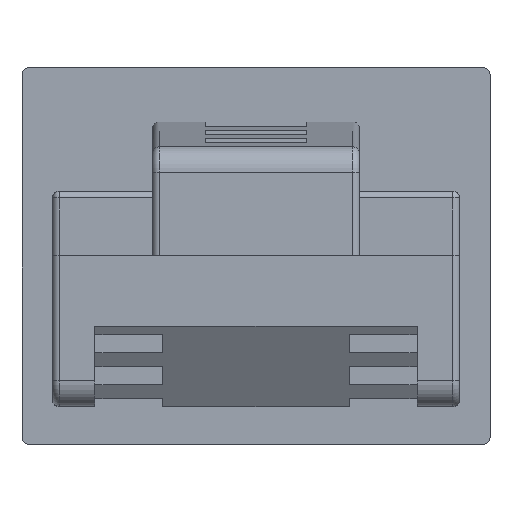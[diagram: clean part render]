
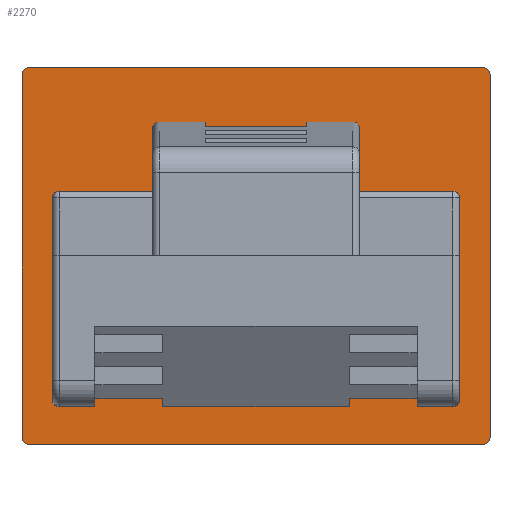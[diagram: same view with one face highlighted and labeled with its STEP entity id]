
A CAD part, top view. The second image highlights one B-rep face of the part: STEP entity #2270.
In plain terms, the highlighted planar face has unit normal (0, 0, 1).
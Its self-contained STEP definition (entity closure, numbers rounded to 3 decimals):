
#36=CARTESIAN_POINT('',(-6.7,5.35,0.3));
#37=DIRECTION('',(0.,0.,1.));
#38=DIRECTION('',(0.,1.,0.));
#39=AXIS2_PLACEMENT_3D('',#36,#37,#38);
#41=DIRECTION('',(1.,0.,0.));
#42=VECTOR('',#41,13.4);
#43=CARTESIAN_POINT('',(-6.7,5.55,0.3));
#44=LINE('',#43,#42);
#45=CARTESIAN_POINT('',(6.7,5.35,0.3));
#46=DIRECTION('',(0.,0.,1.));
#47=DIRECTION('',(1.,0.,0.));
#48=AXIS2_PLACEMENT_3D('',#45,#46,#47);
#50=CARTESIAN_POINT('',(6.7,-5.35,0.3));
#51=DIRECTION('',(0.,0.,1.));
#52=DIRECTION('',(0.,-1.,0.));
#53=AXIS2_PLACEMENT_3D('',#50,#51,#52);
#55=DIRECTION('',(-1.,0.,0.));
#56=VECTOR('',#55,13.4);
#57=CARTESIAN_POINT('',(6.7,-5.55,0.3));
#58=LINE('',#57,#56);
#59=CARTESIAN_POINT('',(-6.7,-5.35,0.3));
#60=DIRECTION('',(0.,0.,1.));
#61=DIRECTION('',(-1.,0.,0.));
#62=AXIS2_PLACEMENT_3D('',#59,#60,#61);
#64=DIRECTION('',(0.,1.,0.));
#65=VECTOR('',#64,10.7);
#66=CARTESIAN_POINT('',(-6.9,-5.35,0.3));
#67=LINE('',#66,#65);
#68=DIRECTION('',(0.,1.,0.));
#69=VECTOR('',#68,5.);
#70=CARTESIAN_POINT('',(-4.75,-4.45,0.3));
#71=LINE('',#70,#69);
#72=DIRECTION('',(0.,1.,0.));
#73=VECTOR('',#72,5.);
#74=CARTESIAN_POINT('',(2.75,-4.45,0.3));
#75=LINE('',#74,#73);
#76=DIRECTION('',(0.,1.,0.));
#77=VECTOR('',#76,5.95);
#78=CARTESIAN_POINT('',(6.,-4.25,0.3));
#79=LINE('',#78,#77);
#80=DIRECTION('',(-1.,0.,0.));
#81=VECTOR('',#80,2.75);
#82=CARTESIAN_POINT('',(5.8,1.9,0.3));
#83=LINE('',#82,#81);
#84=DIRECTION('',(-1.,0.,0.));
#85=VECTOR('',#84,1.35);
#86=CARTESIAN_POINT('',(2.85,3.95,0.3));
#87=LINE('',#86,#85);
#88=DIRECTION('',(1.,0.,0.));
#89=VECTOR('',#88,3.);
#90=CARTESIAN_POINT('',(-1.5,-3.192,0.3));
#91=LINE('',#90,#89);
#92=DIRECTION('',(-1.,0.,0.));
#93=VECTOR('',#92,1.35);
#94=CARTESIAN_POINT('',(-1.5,3.95,0.3));
#95=LINE('',#94,#93);
#96=DIRECTION('',(1.,0.,0.));
#97=VECTOR('',#96,2.75);
#98=CARTESIAN_POINT('',(-5.8,1.9,0.3));
#99=LINE('',#98,#97);
#750=DIRECTION('',(0.,1.,0.));
#751=VECTOR('',#750,10.7);
#752=CARTESIAN_POINT('',(6.9,-5.35,0.3));
#753=LINE('',#752,#751);
#842=DIRECTION('',(-1.,0.,0.));
#843=VECTOR('',#842,1.05);
#844=CARTESIAN_POINT('',(5.8,-4.45,0.3));
#845=LINE('',#844,#843);
#850=DIRECTION('',(-1.,0.,0.));
#851=VECTOR('',#850,5.5);
#852=CARTESIAN_POINT('',(2.75,-4.45,0.3));
#853=LINE('',#852,#851);
#862=DIRECTION('',(-1.,0.,0.));
#863=VECTOR('',#862,1.05);
#864=CARTESIAN_POINT('',(-4.75,-4.45,0.3));
#865=LINE('',#864,#863);
#899=DIRECTION('',(0.,1.,0.));
#900=VECTOR('',#899,5.);
#901=CARTESIAN_POINT('',(4.75,-4.45,0.3));
#902=LINE('',#901,#900);
#1088=DIRECTION('',(1.,0.,0.));
#1089=VECTOR('',#1088,2.);
#1090=CARTESIAN_POINT('',(2.75,0.55,0.3));
#1091=LINE('',#1090,#1089);
#1100=DIRECTION('',(1.,0.,0.));
#1101=VECTOR('',#1100,2.);
#1102=CARTESIAN_POINT('',(-4.75,0.55,0.3));
#1103=LINE('',#1102,#1101);
#1160=DIRECTION('',(0.,1.,0.));
#1161=VECTOR('',#1160,5.);
#1162=CARTESIAN_POINT('',(-2.75,-4.45,0.3));
#1163=LINE('',#1162,#1161);
#1230=DIRECTION('',(0.,1.,0.));
#1231=VECTOR('',#1230,5.95);
#1232=CARTESIAN_POINT('',(-6.,-4.25,0.3));
#1233=LINE('',#1232,#1231);
#1234=CARTESIAN_POINT('',(-5.8,1.7,0.3));
#1235=DIRECTION('',(0.,0.,-1.));
#1236=DIRECTION('',(-1.,0.,0.));
#1237=AXIS2_PLACEMENT_3D('',#1234,#1235,#1236);
#1255=DIRECTION('',(0.,1.,0.));
#1256=VECTOR('',#1255,1.85);
#1257=CARTESIAN_POINT('',(-3.05,1.9,0.3));
#1258=LINE('',#1257,#1256);
#1313=CARTESIAN_POINT('',(-3.05,3.75,0.3));
#1314=CARTESIAN_POINT('',(-3.05,3.816,0.3));
#1315=CARTESIAN_POINT('',(-3.,3.899,0.3));
#1316=CARTESIAN_POINT('',(-2.917,3.95,0.3));
#1317=CARTESIAN_POINT('',(-2.85,3.95,0.3));
#1375=DIRECTION('',(0.,1.,0.));
#1376=VECTOR('',#1375,7.142);
#1377=CARTESIAN_POINT('',(-1.5,-3.192,0.3));
#1378=LINE('',#1377,#1376);
#1423=DIRECTION('',(0.,1.,0.));
#1424=VECTOR('',#1423,7.142);
#1425=CARTESIAN_POINT('',(1.5,-3.192,0.3));
#1426=LINE('',#1425,#1424);
#1472=CARTESIAN_POINT('',(2.85,3.95,0.3));
#1473=CARTESIAN_POINT('',(2.917,3.95,0.3));
#1474=CARTESIAN_POINT('',(3.,3.899,0.3));
#1475=CARTESIAN_POINT('',(3.05,3.816,0.3));
#1476=CARTESIAN_POINT('',(3.05,3.75,0.3));
#1503=DIRECTION('',(0.,1.,0.));
#1504=VECTOR('',#1503,1.85);
#1505=CARTESIAN_POINT('',(3.05,1.9,0.3));
#1506=LINE('',#1505,#1504);
#1582=CARTESIAN_POINT('',(5.8,1.7,0.3));
#1583=DIRECTION('',(0.,0.,-1.));
#1584=DIRECTION('',(0.,1.,0.));
#1585=AXIS2_PLACEMENT_3D('',#1582,#1583,#1584);
#1587=CARTESIAN_POINT('',(5.8,-4.25,0.3));
#1588=DIRECTION('',(0.,0.,-1.));
#1589=DIRECTION('',(1.,0.,0.));
#1590=AXIS2_PLACEMENT_3D('',#1587,#1588,#1589);
#1685=CARTESIAN_POINT('',(-5.8,-4.25,0.3));
#1686=DIRECTION('',(0.,0.,-1.));
#1687=DIRECTION('',(0.,-1.,0.));
#1688=AXIS2_PLACEMENT_3D('',#1685,#1686,#1687);
#1718=CARTESIAN_POINT('',(-6.7,5.55,0.3));
#1719=CARTESIAN_POINT('',(-6.9,5.35,0.3));
#1720=VERTEX_POINT('',#1718);
#1721=VERTEX_POINT('',#1719);
#1726=CARTESIAN_POINT('',(-6.9,-5.35,0.3));
#1728=VERTEX_POINT('',#1726);
#1730=CARTESIAN_POINT('',(-6.7,-5.55,0.3));
#1731=VERTEX_POINT('',#1730);
#1734=CARTESIAN_POINT('',(6.9,5.35,0.3));
#1736=VERTEX_POINT('',#1734);
#1738=CARTESIAN_POINT('',(6.7,5.55,0.3));
#1739=VERTEX_POINT('',#1738);
#1742=CARTESIAN_POINT('',(6.7,-5.55,0.3));
#1743=CARTESIAN_POINT('',(6.9,-5.35,0.3));
#1744=VERTEX_POINT('',#1742);
#1745=VERTEX_POINT('',#1743);
#1786=CARTESIAN_POINT('',(-2.85,3.95,0.3));
#1787=VERTEX_POINT('',#1786);
#1788=CARTESIAN_POINT('',(-3.05,3.75,0.3));
#1789=VERTEX_POINT('',#1788);
#1791=CARTESIAN_POINT('',(3.05,3.75,0.3));
#1793=VERTEX_POINT('',#1791);
#1795=CARTESIAN_POINT('',(2.85,3.95,0.3));
#1797=VERTEX_POINT('',#1795);
#1807=CARTESIAN_POINT('',(-5.8,1.9,0.3));
#1809=VERTEX_POINT('',#1807);
#1811=CARTESIAN_POINT('',(-6.,1.7,0.3));
#1813=VERTEX_POINT('',#1811);
#1832=CARTESIAN_POINT('',(6.,1.7,0.3));
#1834=VERTEX_POINT('',#1832);
#1836=CARTESIAN_POINT('',(5.8,1.9,0.3));
#1837=VERTEX_POINT('',#1836);
#1842=CARTESIAN_POINT('',(3.05,1.9,0.3));
#1843=VERTEX_POINT('',#1842);
#1844=CARTESIAN_POINT('',(6.,-4.25,0.3));
#1845=VERTEX_POINT('',#1844);
#1846=CARTESIAN_POINT('',(-3.05,1.9,0.3));
#1847=VERTEX_POINT('',#1846);
#1848=CARTESIAN_POINT('',(-6.,-4.25,0.3));
#1849=VERTEX_POINT('',#1848);
#1926=CARTESIAN_POINT('',(-5.8,-4.45,0.3));
#1927=VERTEX_POINT('',#1926);
#1932=CARTESIAN_POINT('',(5.8,-4.45,0.3));
#1933=VERTEX_POINT('',#1932);
#1937=CARTESIAN_POINT('',(-1.5,-3.192,0.3));
#1939=VERTEX_POINT('',#1937);
#1949=CARTESIAN_POINT('',(1.5,-3.192,0.3));
#1951=VERTEX_POINT('',#1949);
#1960=CARTESIAN_POINT('',(-1.5,3.95,0.3));
#1962=VERTEX_POINT('',#1960);
#1972=CARTESIAN_POINT('',(1.5,3.95,0.3));
#1974=VERTEX_POINT('',#1972);
#1984=CARTESIAN_POINT('',(4.75,0.55,0.3));
#1986=VERTEX_POINT('',#1984);
#1990=CARTESIAN_POINT('',(2.75,0.55,0.3));
#1991=VERTEX_POINT('',#1990);
#1992=CARTESIAN_POINT('',(-4.75,0.55,0.3));
#1993=CARTESIAN_POINT('',(-2.75,0.55,0.3));
#1994=VERTEX_POINT('',#1992);
#1995=VERTEX_POINT('',#1993);
#2016=CARTESIAN_POINT('',(2.75,-4.45,0.3));
#2018=VERTEX_POINT('',#2016);
#2020=CARTESIAN_POINT('',(-2.75,-4.45,0.3));
#2022=VERTEX_POINT('',#2020);
#2048=CARTESIAN_POINT('',(4.75,-4.45,0.3));
#2049=VERTEX_POINT('',#2048);
#2050=CARTESIAN_POINT('',(-4.75,-4.45,0.3));
#2051=VERTEX_POINT('',#2050);
#2197=CARTESIAN_POINT('',(-6.9,-5.55,0.3));
#2198=DIRECTION('',(0.,0.,1.));
#2199=DIRECTION('',(1.,0.,0.));
#2200=AXIS2_PLACEMENT_3D('',#2197,#2198,#2199);
#2201=PLANE('',#2200);
#2202=ORIENTED_EDGE('',*,*,#2187,.F.);
#2204=ORIENTED_EDGE('',*,*,#2203,.T.);
#2206=ORIENTED_EDGE('',*,*,#2205,.F.);
#2208=ORIENTED_EDGE('',*,*,#2207,.F.);
#2210=ORIENTED_EDGE('',*,*,#2209,.F.);
#2211=ORIENTED_EDGE('',*,*,#2139,.T.);
#2212=ORIENTED_EDGE('',*,*,#2159,.F.);
#2213=ORIENTED_EDGE('',*,*,#2174,.T.);
#2214=EDGE_LOOP('',(#2202,#2204,#2206,#2208,#2210,#2211,#2212,#2213));
#2215=FACE_OUTER_BOUND('',#2214,.F.);
#2217=ORIENTED_EDGE('',*,*,#2216,.F.);
#2219=ORIENTED_EDGE('',*,*,#2218,.T.);
#2221=ORIENTED_EDGE('',*,*,#2220,.T.);
#2223=ORIENTED_EDGE('',*,*,#2222,.F.);
#2225=ORIENTED_EDGE('',*,*,#2224,.F.);
#2227=ORIENTED_EDGE('',*,*,#2226,.T.);
#2229=ORIENTED_EDGE('',*,*,#2228,.T.);
#2231=ORIENTED_EDGE('',*,*,#2230,.F.);
#2233=ORIENTED_EDGE('',*,*,#2232,.F.);
#2235=ORIENTED_EDGE('',*,*,#2234,.F.);
#2237=ORIENTED_EDGE('',*,*,#2236,.T.);
#2239=ORIENTED_EDGE('',*,*,#2238,.F.);
#2241=ORIENTED_EDGE('',*,*,#2240,.T.);
#2243=ORIENTED_EDGE('',*,*,#2242,.T.);
#2245=ORIENTED_EDGE('',*,*,#2244,.F.);
#2247=ORIENTED_EDGE('',*,*,#2246,.T.);
#2249=ORIENTED_EDGE('',*,*,#2248,.F.);
#2251=ORIENTED_EDGE('',*,*,#2250,.F.);
#2253=ORIENTED_EDGE('',*,*,#2252,.T.);
#2255=ORIENTED_EDGE('',*,*,#2254,.T.);
#2257=ORIENTED_EDGE('',*,*,#2256,.F.);
#2259=ORIENTED_EDGE('',*,*,#2258,.F.);
#2261=ORIENTED_EDGE('',*,*,#2260,.F.);
#2263=ORIENTED_EDGE('',*,*,#2262,.F.);
#2265=ORIENTED_EDGE('',*,*,#2264,.F.);
#2267=ORIENTED_EDGE('',*,*,#2266,.F.);
#2268=EDGE_LOOP('',(#2217,#2219,#2221,#2223,#2225,#2227,#2229,#2231,#2233,#2235,
#2237,#2239,#2241,#2243,#2245,#2247,#2249,#2251,#2253,#2255,#2257,#2259,#2261,
#2263,#2265,#2267));
#2269=FACE_BOUND('',#2268,.F.);
#2270=ADVANCED_FACE('',(#2215,#2269),#2201,.T.);
#40=CIRCLE('',#39,0.2);
#49=CIRCLE('',#48,0.2);
#54=CIRCLE('',#53,0.2);
#63=CIRCLE('',#62,0.2);
#1238=CIRCLE('',#1237,0.2);
#1318=B_SPLINE_CURVE_WITH_KNOTS('',3,(#1313,#1314,#1315,#1316,#1317),
.UNSPECIFIED.,.F.,.F.,(4,1,4),(0.,0.5,1.),.UNSPECIFIED.);
#1477=B_SPLINE_CURVE_WITH_KNOTS('',3,(#1472,#1473,#1474,#1475,#1476),
.UNSPECIFIED.,.F.,.F.,(4,1,4),(0.,0.5,1.),.UNSPECIFIED.);
#1586=CIRCLE('',#1585,0.2);
#1591=CIRCLE('',#1590,0.2);
#1689=CIRCLE('',#1688,0.2);
#2139=EDGE_CURVE('',#1744,#1731,#58,.T.);
#2159=EDGE_CURVE('',#1728,#1731,#63,.T.);
#2174=EDGE_CURVE('',#1728,#1721,#67,.T.);
#2187=EDGE_CURVE('',#1720,#1721,#40,.T.);
#2203=EDGE_CURVE('',#1720,#1739,#44,.T.);
#2205=EDGE_CURVE('',#1736,#1739,#49,.T.);
#2207=EDGE_CURVE('',#1745,#1736,#753,.T.);
#2209=EDGE_CURVE('',#1744,#1745,#54,.T.);
#2216=EDGE_CURVE('',#2051,#1927,#865,.T.);
#2218=EDGE_CURVE('',#2051,#1994,#71,.T.);
#2220=EDGE_CURVE('',#1994,#1995,#1103,.T.);
#2222=EDGE_CURVE('',#2022,#1995,#1163,.T.);
#2224=EDGE_CURVE('',#2018,#2022,#853,.T.);
#2226=EDGE_CURVE('',#2018,#1991,#75,.T.);
#2228=EDGE_CURVE('',#1991,#1986,#1091,.T.);
#2230=EDGE_CURVE('',#2049,#1986,#902,.T.);
#2232=EDGE_CURVE('',#1933,#2049,#845,.T.);
#2234=EDGE_CURVE('',#1845,#1933,#1591,.T.);
#2236=EDGE_CURVE('',#1845,#1834,#79,.T.);
#2238=EDGE_CURVE('',#1837,#1834,#1586,.T.);
#2240=EDGE_CURVE('',#1837,#1843,#83,.T.);
#2242=EDGE_CURVE('',#1843,#1793,#1506,.T.);
#2244=EDGE_CURVE('',#1797,#1793,#1477,.T.);
#2246=EDGE_CURVE('',#1797,#1974,#87,.T.);
#2248=EDGE_CURVE('',#1951,#1974,#1426,.T.);
#2250=EDGE_CURVE('',#1939,#1951,#91,.T.);
#2252=EDGE_CURVE('',#1939,#1962,#1378,.T.);
#2254=EDGE_CURVE('',#1962,#1787,#95,.T.);
#2256=EDGE_CURVE('',#1789,#1787,#1318,.T.);
#2258=EDGE_CURVE('',#1847,#1789,#1258,.T.);
#2260=EDGE_CURVE('',#1809,#1847,#99,.T.);
#2262=EDGE_CURVE('',#1813,#1809,#1238,.T.);
#2264=EDGE_CURVE('',#1849,#1813,#1233,.T.);
#2266=EDGE_CURVE('',#1927,#1849,#1689,.T.);
